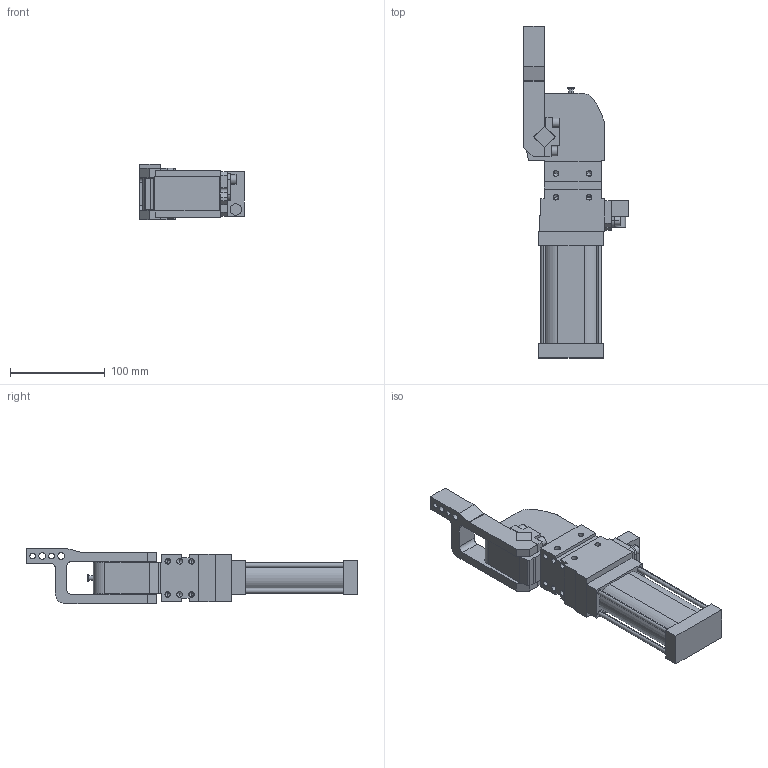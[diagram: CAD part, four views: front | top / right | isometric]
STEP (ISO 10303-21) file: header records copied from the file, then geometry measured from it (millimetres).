
FILE_DESCRIPTION (( 'STEP AP214' ), '1' );
FILE_NAME ('cpl40h2si1g_108.STEP', '2021-05-25T10:42:13', ( '' ), ( '' ), 'SwSTEP 2.0', 'SolidWorks 2021', '' );
FILE_SCHEMA (( 'AUTOMOTIVE_DESIGN' ));
Length unit declared in the file: millimetre
Products named in the file (5): leva_v2d_cpl40; meccanica_cpl40; blocchetto_VEP_0_cpl40; cpl40h2si1g_108; piastra_blocchetto_cpl40
Assembly tree (4 placements, depth 2):
  cpl40h2si1g_108
    meccanica_cpl40
    blocchetto_VEP_0_cpl40
    piastra_blocchetto_cpl40
    leva_v2d_cpl40
Bounding box: 110.5 x 350 x 58 mm (x, y, z)
Volume: 766650.2 mm3; surface area: 116512.3 mm2
Topology: 5 solids, 5 shells, 431 faces, 1097 edges, 687 vertices
Faces by surface type: plane 242, cylinder 141, cone 48
Entity records: 14240 total; most frequent: DIRECTION 2239, CARTESIAN_POINT 2176, ORIENTED_EDGE 2102, EDGE_CURVE 1051, AXIS2_PLACEMENT_3D 750, LINE 739, VECTOR 739, VERTEX_POINT 687
